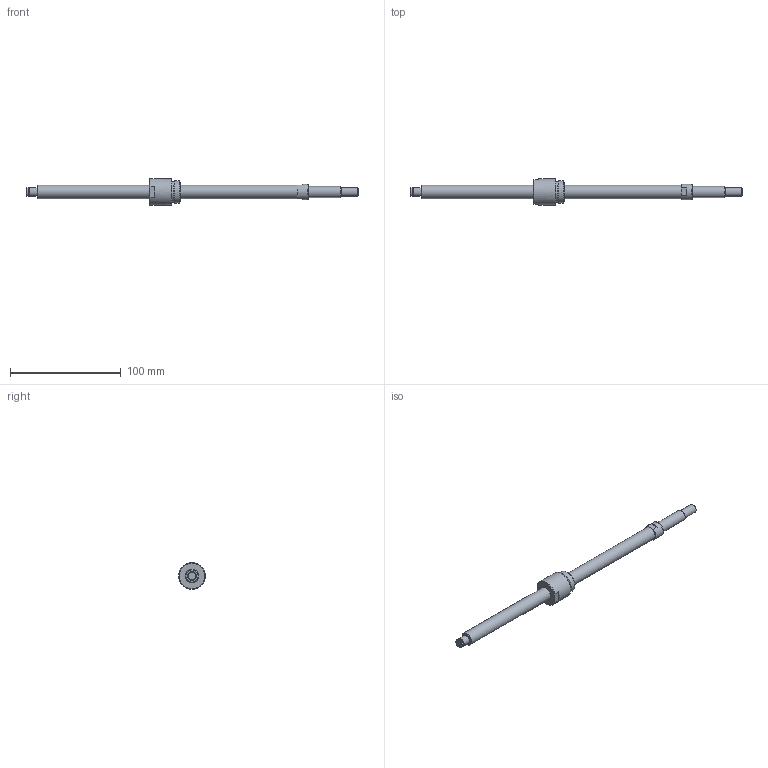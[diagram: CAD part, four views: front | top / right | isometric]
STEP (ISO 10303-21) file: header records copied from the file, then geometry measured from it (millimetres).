
FILE_DESCRIPTION(/* description */ ('STEP AP214'),/* implementation_level */ '2;1');
FILE_NAME(/* name */ 'NSG1202-231R300C5B0X(101.5)',/* time_stamp */ '2026-08-20T15:50:03+02:00',/* author */ ('License CC BY-ND 4.0'),/* organization */ ('CADENAS'),/* preprocessor_version */ 'ST-DEVELOPER v20',/* originating_system */ 'PARTsolutions',/* authorisation */ ' ');
FILE_SCHEMA (('AUTOMOTIVE_DESIGN {1 0 10303 214 3 1 1}'));
Length unit declared in the file: millimetre
Products named in the file (3): NSG1202-231R300C5B0X(101.5); NSG1202-231R300C3B_shaft; NSG1202_nut
Assembly tree (2 placements, depth 2):
  NSG1202-231R300C5B0X(101.5)
    NSG1202-231R300C3B_shaft
    NSG1202_nut
Bounding box: 300 x 24 x 24 mm (x, y, z)
Volume: 39843.4 mm3; surface area: 14869.1 mm2
Topology: 2 solids, 2 shells, 42 faces, 83 edges, 51 vertices
Faces by surface type: plane 20, cylinder 11, cone 10, torus 1
Full cylindrical faces by diameter (mm): 7.6 x1, 8 x3, 10 x1, 12 x2, 14 x1, 18.4 x1, 20 x1, 24 x1
Entity records: 1047 total; most frequent: DIRECTION 186, CARTESIAN_POINT 167, ORIENTED_EDGE 122, AXIS2_PLACEMENT_3D 84, EDGE_LOOP 70, FACE_BOUND 70, EDGE_CURVE 61, VERTEX_POINT 49
